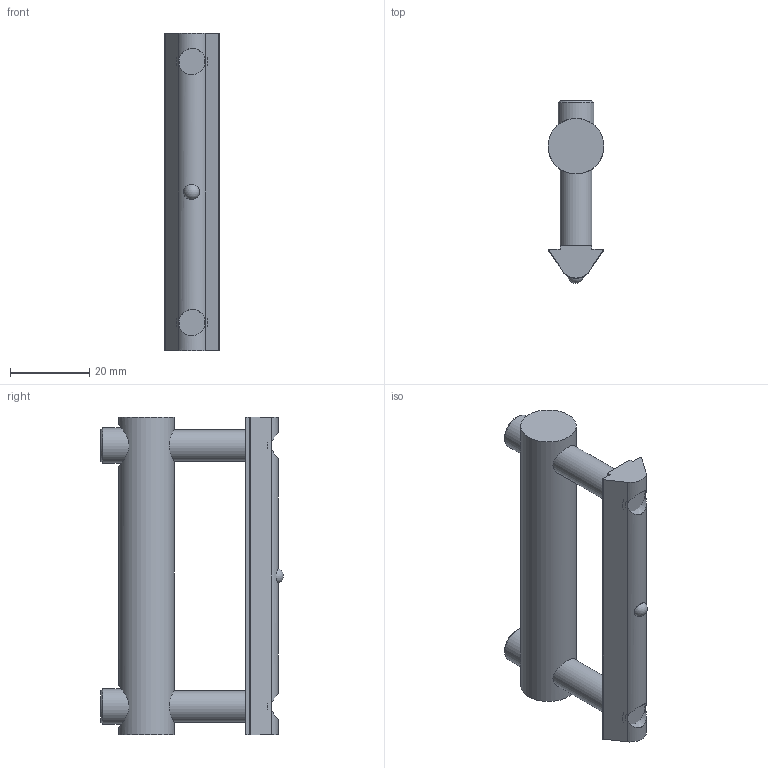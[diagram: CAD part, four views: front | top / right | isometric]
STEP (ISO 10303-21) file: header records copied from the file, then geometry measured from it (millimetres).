
FILE_DESCRIPTION((''),'2;1');
FILE_NAME('E:\catalogue and flyer\Profile catalogue 2015\Accessories JE info\Accessories-JE step file 31MAr16\JE-BC8080-8.stp','2016-03-31T15:01:04',('h029'),(''),'Autodesk Inventor 11','Autodesk Inventor 11','');
FILE_SCHEMA(('AUTOMOTIVE_DESIGN { 1 0 10303 214 1 1 1 1 }'));
Length unit declared in the file: millimetre
Products named in the file (4): JE-BC8080-8; Rod; JE-HRN8-8 (4040); special screw M8x35
Assembly tree (4 placements, depth 2):
  JE-BC8080-8
    Rod
    JE-HRN8-8 (4040)
    special screw M8x35  x2
Bounding box: 14 x 46 x 80 mm (x, y, z)
Volume: 20150.3 mm3; surface area: 10070.9 mm2
Topology: 4 solids, 4 shells, 66 faces, 150 edges, 97 vertices
Faces by surface type: plane 31, cylinder 22, bspline 8, cone 4, sphere 1
Full cylindrical faces by diameter (mm): 8 x2, 9 x2, 14 x1
Entity records: 1924 total; most frequent: CARTESIAN_POINT 829, DIRECTION 204, ORIENTED_EDGE 186, EDGE_CURVE 93, AXIS2_PLACEMENT_3D 76, EDGE_LOOP 68, VERTEX_POINT 67, VECTOR 52
